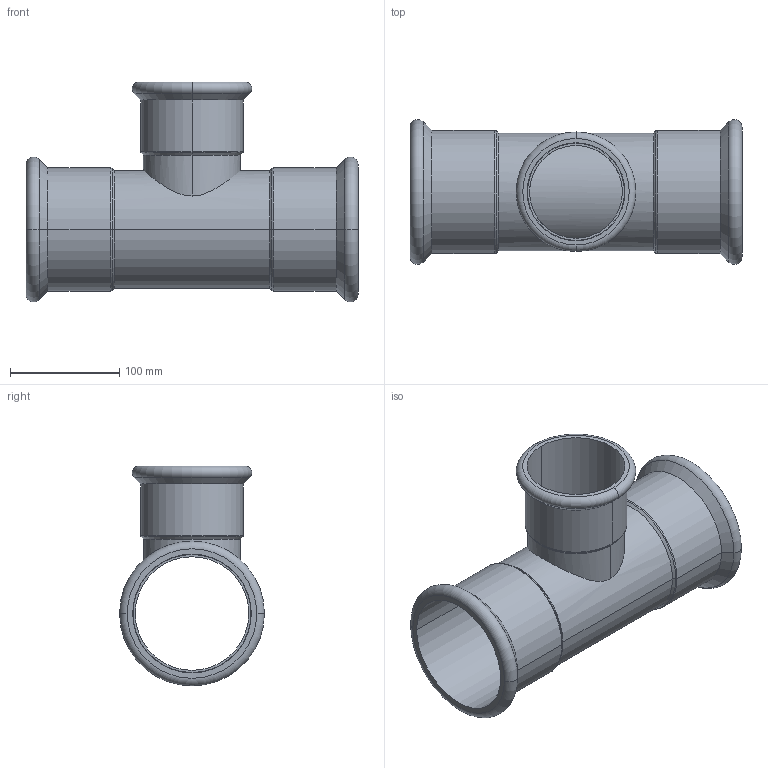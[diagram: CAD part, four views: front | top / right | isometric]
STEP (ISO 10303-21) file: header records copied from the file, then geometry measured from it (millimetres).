
FILE_DESCRIPTION(('CoCreate Modeling STEP Export'),'2;1');
FILE_NAME('C1415 108x88.9x108.stp','2014-11-12T11:01:28',(''),(''),'CoCreate Modeling STEP processor for AP214 (Solid Model)','CoCreate Modeling 17.00A 17-Jun-2010 (C) Parametric Technology GmbH','');
FILE_SCHEMA(('AUTOMOTIVE_DESIGN { 1 0 10303 214 1 1 1 1 }'));
Length unit declared in the file: millimetre
Products named in the file (2): C1415_108x89x108
Assembly tree (1 placements, depth 2):
  C1415_108x89x108
    C1415_108x89x108
Bounding box: 304 x 132.58 x 201.29 mm (x, y, z)
Volume: 396334.5 mm3; surface area: 277206.5 mm2
Topology: 1 solids, 1 shells, 60 faces, 124 edges, 74 vertices
Faces by surface type: cylinder 27, cone 12, torus 12, plane 9
Entity records: 2987 total; most frequent: CARTESIAN_POINT 1846, ORIENTED_EDGE 248, DIRECTION 202, EDGE_CURVE 124, AXIS2_PLACEMENT_3D 82, VERTEX_POINT 74, EDGE_LOOP 70, FACE_OUTER_BOUND 60
